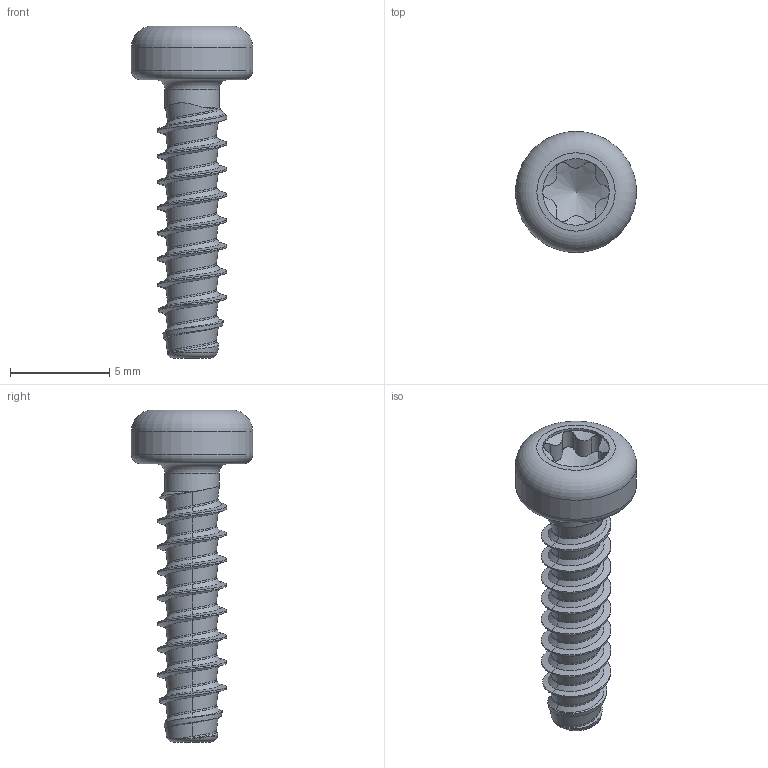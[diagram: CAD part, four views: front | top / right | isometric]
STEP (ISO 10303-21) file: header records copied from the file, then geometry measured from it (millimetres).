
FILE_DESCRIPTION(/* description */ (''),/* implementation_level */ '2;1');
FILE_NAME(/* name */ 'KN6039-STSplus-35x14-T15.step',/* time_stamp */ '2017-10-11T15:55:19+02:00',/* author */ (''),/* organization */ (''),/* preprocessor_version */ 'ST-DEVELOPER v16',/* originating_system */ 'SIEMENS PLM Software NX 10.0',/* authorisation */ '');
FILE_SCHEMA (('AUTOMOTIVE_DESIGN { 1 0 10303 214 3 1 1 1 }'));
Length unit declared in the file: millimetre
Products named in the file (1): KN6039-STSplus-35x14-T15
Bounding box: 6.1 x 6.1 x 16.7 mm (x, y, z)
Volume: 145.1 mm3; surface area: 278.7 mm2
Topology: 1 solids, 1 shells, 86 faces, 200 edges, 117 vertices
Faces by surface type: bspline 54, cylinder 16, cone 9, torus 4, plane 3
Full cylindrical faces by diameter (mm): 2.73 x1, 3.35 x1, 6.1 x1
Entity records: 5616 total; most frequent: CARTESIAN_POINT 4083, ORIENTED_EDGE 376, EDGE_CURVE 188, DIRECTION 163, VERTEX_POINT 114, B_SPLINE_CURVE_WITH_KNOTS 109, EDGE_LOOP 95, ADVANCED_FACE 86
